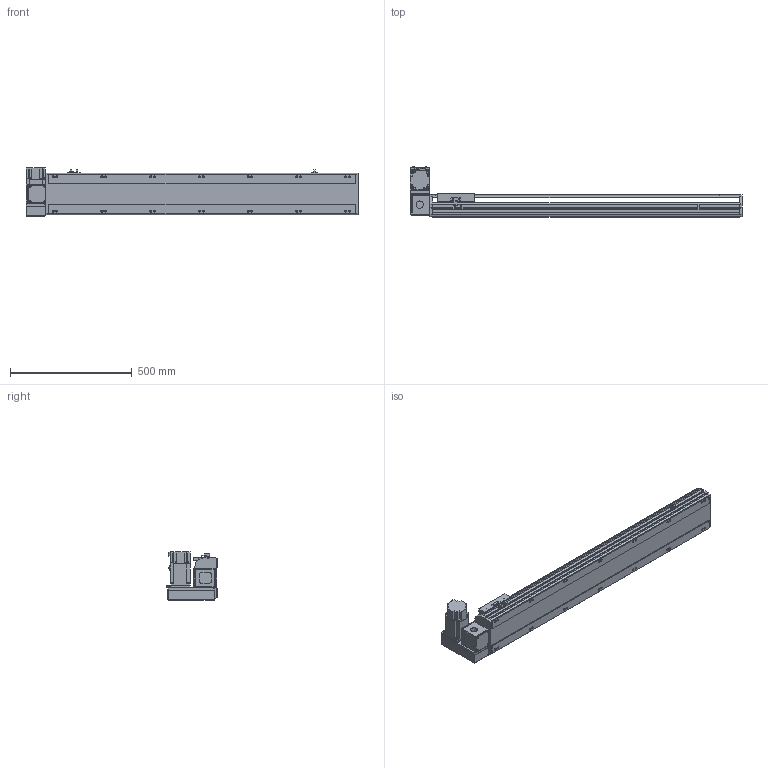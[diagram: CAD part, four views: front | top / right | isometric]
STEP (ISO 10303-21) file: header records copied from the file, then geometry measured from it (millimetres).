
FILE_DESCRIPTION( ( 'STEP AP214' ), '1' );
FILE_NAME( 'x:/temp/worker_4/temp/exporttempdir_2248_394_Us5Mh/format_0/PBS170-P40-S1000-LU-T75-C1-N(0).stp', '2022-06-07T08:15:10', ( 'License CC BY-ND 4.0' ), ( 'CADENAS' ), ' ', 'PARTsolutions', ' ' );
FILE_SCHEMA( ( 'AUTOMOTIVE_DESIGN { 1 0 10303 214 1 1 1 1 }' ) );
Length unit declared in the file: millimetre
Products named in the file (7): PBS170-P40-S1000-LU-T75-C1-N(0); _PBS170-S1000()_body; _PBS170T-LU_motors; _T75-p1; _PBS170_sliser; _PBS170_plant; _PBS170_sensor
Assembly tree (8 placements, depth 2):
  PBS170-P40-S1000-LU-T75-C1-N(0)
    _PBS170-S1000()_body
    _PBS170T-LU_motors
    _T75-p1
    _PBS170_sliser
    _PBS170_plant
    _PBS170_sensor  x3
Bounding box: 1363 x 206 x 197.3 mm (x, y, z)
Volume: 10992665.8 mm3; surface area: 1439294.7 mm2
Topology: 8 solids, 8 shells, 1066 faces, 2835 edges, 1848 vertices
Faces by surface type: plane 681, cylinder 331, cone 44, sphere 8, torus 2
Full cylindrical faces by diameter (mm): 3.242 x4, 4 x2, 4.4 x4, 4.5 x6, 4.917 x4, 6 x9, 6.647 x22, 7 x2, 7.5 x4, 8 x8, 8.5 x14, 10 x4, 10.5 x14, 11 x2, 30 x2, 40 x1, 70 x1
Entity records: 39098 total; most frequent: CARTESIAN_POINT 6053, DIRECTION 5230, ORIENTED_EDGE 4968, EDGE_CURVE 2484, AXIS2_PLACEMENT_3D 1807, VERTEX_POINT 1706, LINE 1616, VECTOR 1616
